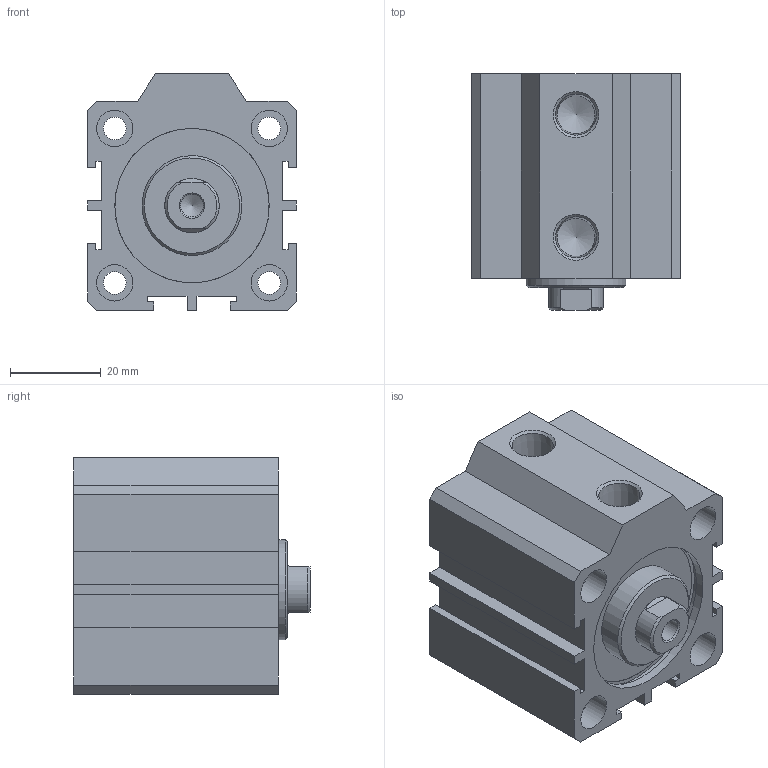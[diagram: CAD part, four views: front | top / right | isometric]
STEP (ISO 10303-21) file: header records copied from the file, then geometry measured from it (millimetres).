
FILE_DESCRIPTION(/* description */ ('Unknown'),/* implementation_level */ '2;1');
FILE_NAME(/* name */ 'WJ32-20',/* time_stamp */ '2026-07-17T16:17:07+08:00',/* author */ ('Unknown'),/* organization */ ('Unknown'),/* preprocessor_version */ 'ST-DEVELOPER v16.7',/* originating_system */ 'DEX',/* authorisation */ $);
FILE_SCHEMA (('CONFIG_CONTROL_DESIGN'));
Length unit declared in the file: millimetre
Products named in the file (5): WJ32-20; WJ32_本; WJ32_玡嶈搵; WJ32_後; WJ32_､ﾟｶbｬ｡_;m^XD}
Assembly tree (4 placements, depth 2):
  WJ32-20
    WJ32_本
    WJ32_玡嶈搵
    WJ32_後
    WJ32_､ﾟｶbｬ｡_;m^XD}
Bounding box: 46 x 52 x 52 mm (x, y, z)
Volume: 69976 mm3; surface area: 31124 mm2
Topology: 4 solids, 4 shells, 119 faces, 289 edges, 195 vertices
Faces by surface type: plane 77, cylinder 29, cone 13
Full cylindrical faces by diameter (mm): 5 x5, 8 x8, 8.4 x2, 12 x2, 22 x2, 31.5 x1, 32 x1, 34 x6, 35.7 x2
Entity records: 3988 total; most frequent: DIRECTION 542, CARTESIAN_POINT 539, ORIENTED_EDGE 454, EDGE_CURVE 227, AXIS2_PLACEMENT_3D 195, FACE_BOUND 191, EDGE_LOOP 188, VERTEX_POINT 176
